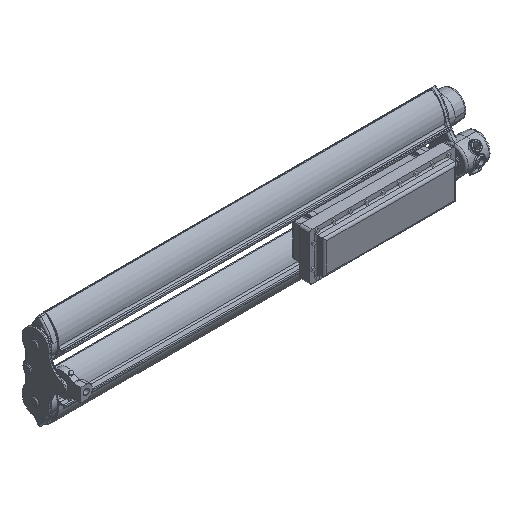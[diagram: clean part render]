
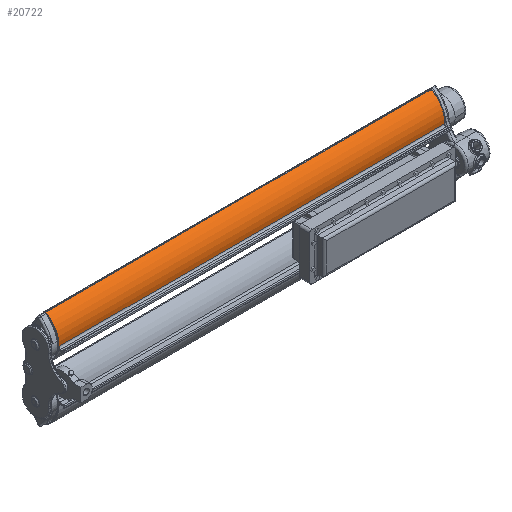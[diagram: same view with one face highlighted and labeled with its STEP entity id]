
A CAD part, isometric view. The second image highlights one B-rep face of the part: STEP entity #20722.
In plain terms, the highlighted cylindrical face has radius 76.103 mm (diameter 152.207 mm), a partial arc.
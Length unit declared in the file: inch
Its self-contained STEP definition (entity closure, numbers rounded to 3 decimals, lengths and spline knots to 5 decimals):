
#1587 = DIRECTION ( 'NONE',  ( 0., 0., 1. ) ) ;
#1882 = ORIENTED_EDGE ( 'NONE', *, *, #25094, .T. ) ;
#2142 = CARTESIAN_POINT ( 'NONE',  ( -2.62633, 0.24461, 47. ) ) ;
#2706 = CARTESIAN_POINT ( 'NONE',  ( 0.21331, 1.87672, 47. ) ) ;
#2913 = ORIENTED_EDGE ( 'NONE', *, *, #19028, .F. ) ;
#4320 = DIRECTION ( 'NONE',  ( 0., 0., 1. ) ) ;
#6364 = CIRCLE ( 'NONE', #27128, 2.9962 ) ;
#7883 = EDGE_LOOP ( 'NONE', ( #1882, #31687, #2913, #11741 ) ) ;
#8246 = DIRECTION ( 'NONE',  ( 0., 0., 1. ) ) ;
#8532 = CARTESIAN_POINT ( 'NONE',  ( 0.21331, 1.87672, 0. ) ) ;
#10763 = VECTOR ( 'NONE', #8246, 39.37008 ) ;
#11031 = EDGE_CURVE ( 'NONE', #22393, #27680, #26221, .T. ) ;
#11086 = CARTESIAN_POINT ( 'NONE',  ( -2.62633, 0.24461, 0. ) ) ;
#11702 = VERTEX_POINT ( 'NONE', #8532 ) ;
#11730 = CARTESIAN_POINT ( 'NONE',  ( 0.04379, -1.11468, 47. ) ) ;
#11741 = ORIENTED_EDGE ( 'NONE', *, *, #20549, .T. ) ;
#12061 = VERTEX_POINT ( 'NONE', #32730 ) ;
#16955 = DIRECTION ( 'NONE',  ( 0., 0., -1. ) ) ;
#18978 = CARTESIAN_POINT ( 'NONE',  ( 0.04379, -1.11468, 47. ) ) ;
#19028 = EDGE_CURVE ( 'NONE', #12061, #27680, #25662, .T. ) ;
#20549 = EDGE_CURVE ( 'NONE', #12061, #11702, #22585, .T. ) ;
#20722 = ADVANCED_FACE ( 'NONE', ( #35327 ), #31685, .T. ) ;
#21677 = CARTESIAN_POINT ( 'NONE',  ( 0.04379, -1.11468, 0. ) ) ;
#21880 = DIRECTION ( 'NONE',  ( -1., 0., 0. ) ) ;
#22393 = VERTEX_POINT ( 'NONE', #11086 ) ;
#22585 = LINE ( 'NONE', #2706, #29398 ) ;
#24604 = DIRECTION ( 'NONE',  ( -1., 0., 0. ) ) ;
#25094 = EDGE_CURVE ( 'NONE', #11702, #22393, #6364, .T. ) ;
#25662 = CIRCLE ( 'NONE', #30069, 2.9962 ) ;
#26221 = LINE ( 'NONE', #2142, #10763 ) ;
#26512 = AXIS2_PLACEMENT_3D ( 'NONE', #11730, #32299, #32425 ) ;
#27128 = AXIS2_PLACEMENT_3D ( 'NONE', #21677, #4320, #24604 ) ;
#27680 = VERTEX_POINT ( 'NONE', #28583 ) ;
#28583 = CARTESIAN_POINT ( 'NONE',  ( -2.62633, 0.24461, 47. ) ) ;
#29398 = VECTOR ( 'NONE', #16955, 39.37008 ) ;
#30069 = AXIS2_PLACEMENT_3D ( 'NONE', #18978, #1587, #21880 ) ;
#31685 = CYLINDRICAL_SURFACE ( 'NONE', #26512, 2.9962 ) ;
#31687 = ORIENTED_EDGE ( 'NONE', *, *, #11031, .T. ) ;
#32299 = DIRECTION ( 'NONE',  ( 0., 0., -1. ) ) ;
#32425 = DIRECTION ( 'NONE',  ( -1., 0., 0. ) ) ;
#32730 = CARTESIAN_POINT ( 'NONE',  ( 0.21331, 1.87672, 47. ) ) ;
#35327 = FACE_OUTER_BOUND ( 'NONE', #7883, .T. ) ;
